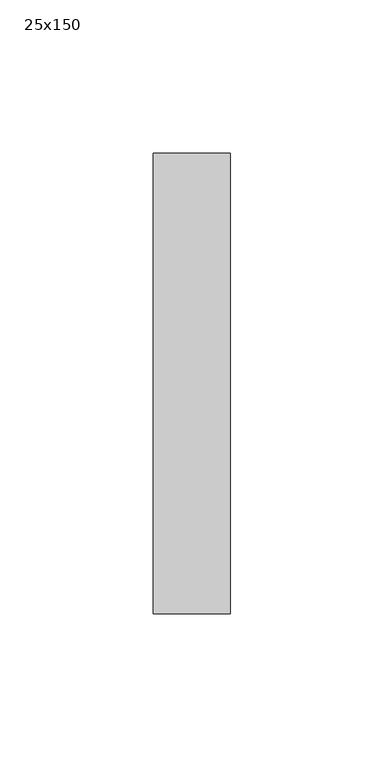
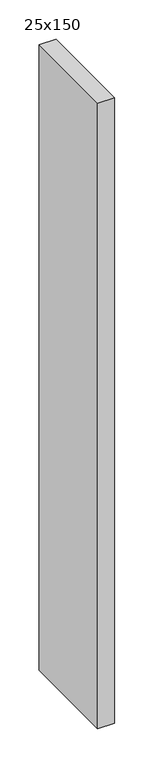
"""IFC4 building model written with IfcOpenShell, lengths in millimetres: member geometry, 長方形のマリオン : 25x150."""

from ifc_helpers import new_model, si_unit, frame, origin, place, context, project, spatial, polyline, outline, extrude, source, transform, mapped, element, save


def member_25x150_6da1263c(model_context):
    return source(origin(), model_context, "Body", "SweptSolid", [
        extrude(outline(polyline([(0.0, 75.0), (0.0, -75.0), (-25.0, -75.0), (-25.0, 75.0), (0.0, 75.0)])), frame((0.0, 0.0, -975.0), z_axis=(0.0, 0.0, 1.0), x_axis=(1.0, 0.0, 0.0)), (0.0, 0.0, 1.0), 975.0),
    ])


if __name__ == "__main__":
    model = new_model("IFC4")
    model_context = context("Model", 3, world=origin())
    ifc_project = project(units=[si_unit("LENGTHUNIT", "METRE", prefix="MILLI")], contexts=[model_context])
    site = spatial("IfcSite", under=ifc_project)
    building = spatial("IfcBuilding", under=site)
    placement = place(None, origin())
    member_25x150_shape = member_25x150_6da1263c(model_context)
    element("IfcMember", 1, ObjectType="長方形のマリオン : 25x150", at=placement, inside=building, context=model_context, shape_type="MappedRepresentation", body=[
        mapped(member_25x150_shape, transform((0.0, 0.0, 0.0), x_axis=(1.0, 0.0, 0.0), y_axis=(0.0, 1.0, 0.0), z_axis=(0.0, 0.0, 1.0))),
    ])
    save(model, "model.ifc")
